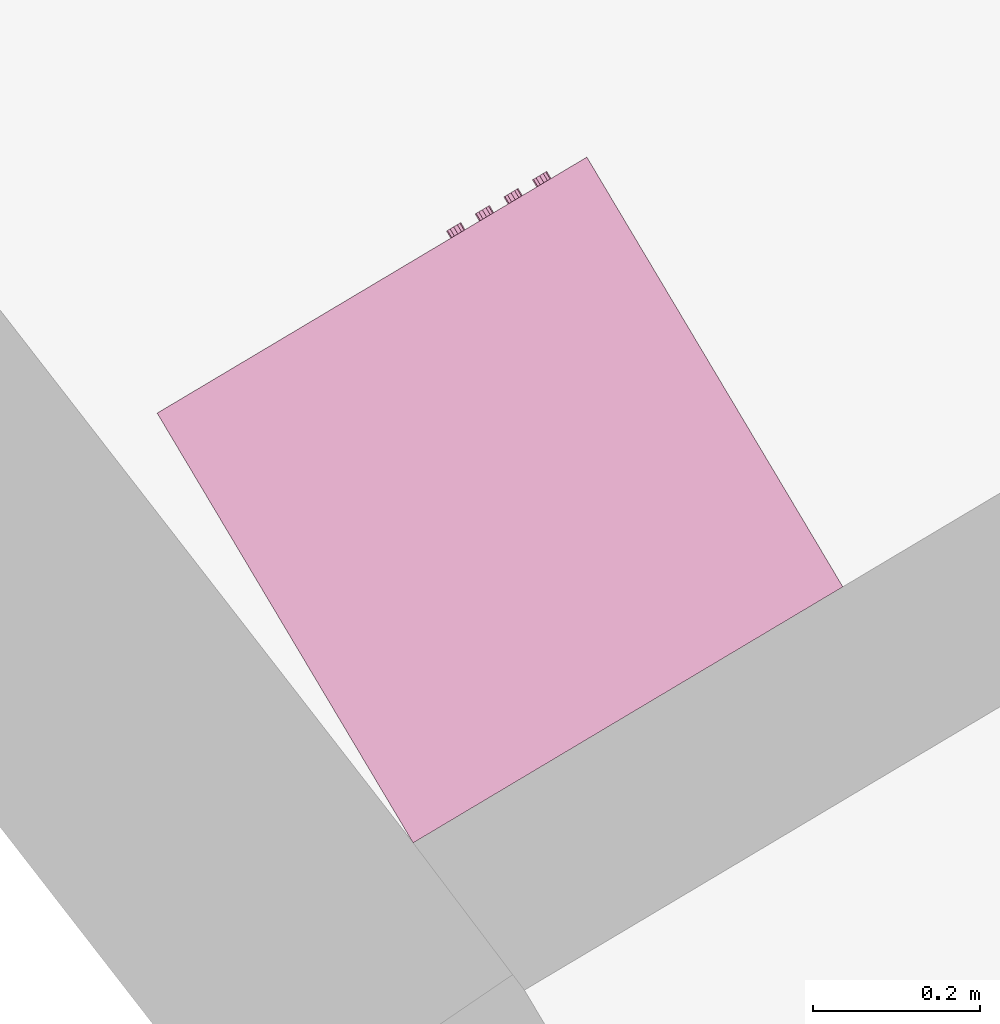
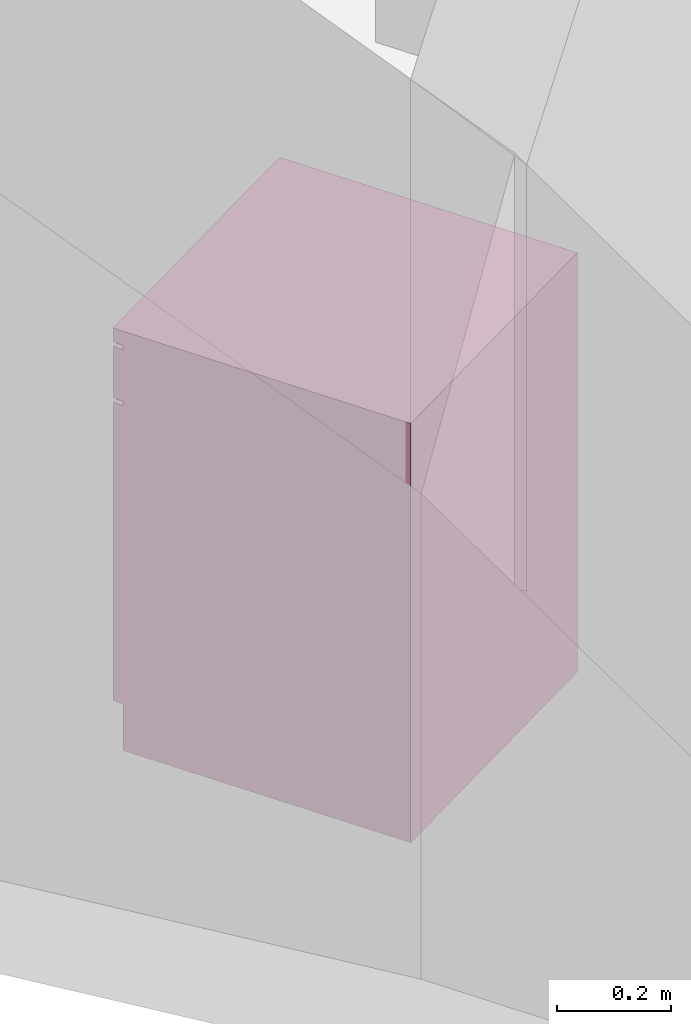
# One storey, part 154 of 195: 1 furnishing.
"""IFC2X3 building model written with IfcOpenShell, lengths in metres."""

from ifc_helpers import new_model, entity, si_unit, converted_unit, derived_unit, money_unit, direction, frame, origin_with_axes, place, context, subcontext, project, spatial, open_shell, faceted_brep, surface_model, source, transform, mapped, type_object, element, save


model = new_model("IFC2X3")

# Units and contexts
model_context = context("Model", 3, precision=1e-05, world=origin_with_axes(), true_north=direction((0.0, 1.0)))
body_context = subcontext(model_context, "Body", "Model", "MODEL_VIEW")
ifc_project = project(units=[si_unit("LENGTHUNIT", "METRE"), si_unit("AREAUNIT", "SQUARE_METRE"), si_unit("VOLUMEUNIT", "CUBIC_METRE"), converted_unit("PLANEANGLEUNIT", "DEGREE", entity("IfcPlaneAngleMeasure", 0.0174532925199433), si_unit("PLANEANGLEUNIT", "RADIAN"), dimensions=[0, 0, 0, 0, 0, 0, 0]), money_unit("CHF"), converted_unit("TIMEUNIT", "Year", entity("IfcTimeMeasure", 31557600.0), si_unit("TIMEUNIT", "SECOND"), dimensions=[0, 0, 1, 0, 0, 0, 0]), si_unit("MASSUNIT", "GRAM", prefix="KILO"), si_unit("THERMODYNAMICTEMPERATUREUNIT", "DEGREE_CELSIUS"), si_unit("LUMINOUSINTENSITYUNIT", "LUMEN"), si_unit("ENERGYUNIT", "JOULE", prefix="MEGA"), derived_unit("THERMALCONDUCTANCEUNIT", [(si_unit("POWERUNIT", "WATT"), 1), (si_unit("LENGTHUNIT", "METRE"), -1), (si_unit("THERMODYNAMICTEMPERATUREUNIT", "KELVIN"), -1)]), derived_unit("SPECIFICHEATCAPACITYUNIT", [(si_unit("ENERGYUNIT", "JOULE"), 1), (si_unit("MASSUNIT", "GRAM", prefix="KILO"), -1), (si_unit("THERMODYNAMICTEMPERATUREUNIT", "KELVIN"), -1)]), derived_unit("MASSDENSITYUNIT", [(si_unit("MASSUNIT", "GRAM", prefix="KILO"), 1), (si_unit("VOLUMEUNIT", "CUBIC_METRE"), -1)])], contexts=[model_context])

# Site, building, storey
site_placement = place(None, origin_with_axes())
site = spatial("IfcSite", under=ifc_project, at=site_placement, Name="Site", CompositionType="ELEMENT")
building_placement = place(site_placement, origin_with_axes())
building = spatial("IfcBuilding", under=site, at=building_placement, Name="Bâtiment", CompositionType="ELEMENT")
storey_placement = place(building_placement, origin_with_axes())
storey = spatial("IfcBuildingStorey", under=building, at=storey_placement, Name="rdc", CompositionType="ELEMENT", Elevation=0.0)

# Furnishing
furnishing_element_type = type_object("IfcFurnishingElementType", Name="Machine à laver")
shared_shape = source(origin_with_axes(), body_context, "Body", "SurfaceModel", [
    faceted_brep([(0.0, 0.02, 0.1), (0.6, 0.02, 0.1), (0.6, 0.0, 0.1), (0.0, 0.0, 0.1), (0.0, 0.02000000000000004, 0.74), (0.6, 0.02000000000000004, 0.74), (0.4714285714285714, 0.02000000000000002, 0.42), (0.4655872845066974, 0.02000000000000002, 0.4643689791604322), (0.448461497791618, 0.02000000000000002, 0.5057142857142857), (0.4212183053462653, 0.02000000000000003, 0.5412183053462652), (0.3857142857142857, 0.02000000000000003, 0.568461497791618), (0.3443689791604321, 0.02000000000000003, 0.5855872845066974), (0.3, 0.02000000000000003, 0.5914285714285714), (0.2556310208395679, 0.02000000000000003, 0.5855872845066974), (0.2142857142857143, 0.02000000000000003, 0.5684614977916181), (0.1787816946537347, 0.02000000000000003, 0.5412183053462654), (0.1515385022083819, 0.02000000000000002, 0.5057142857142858), (0.1344127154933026, 0.02000000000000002, 0.4643689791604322), (0.1285714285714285, 0.02000000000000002, 0.42), (0.1344127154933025, 0.02000000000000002, 0.3756310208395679), (0.1515385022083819, 0.02000000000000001, 0.3342857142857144), (0.1787816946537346, 0.02000000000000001, 0.2987816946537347), (0.2142857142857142, 0.02000000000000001, 0.2715385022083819), (0.2556310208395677, 0.02000000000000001, 0.2544127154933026), (0.2999999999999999, 0.02000000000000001, 0.2485714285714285), (0.344368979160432, 0.02000000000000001, 0.2544127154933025), (0.3857142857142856, 0.02000000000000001, 0.2715385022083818), (0.4212183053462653, 0.02000000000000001, 0.2987816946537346), (0.448461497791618, 0.02000000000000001, 0.3342857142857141), (0.4655872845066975, 0.02000000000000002, 0.3756310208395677), (0.6, 0.0, 0.74), (0.0, 0.0, 0.74), (0.4714285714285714, 0.0, 0.42), (0.4655872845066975, 0.0, 0.3756310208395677), (0.448461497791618, 0.0, 0.3342857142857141), (0.4212183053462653, 0.0, 0.2987816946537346), (0.3857142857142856, 0.0, 0.2715385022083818), (0.344368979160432, 0.0, 0.2544127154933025), (0.2999999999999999, 0.0, 0.2485714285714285), (0.2556310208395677, 0.0, 0.2544127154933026), (0.2142857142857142, 0.0, 0.2715385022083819), (0.1787816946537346, 0.0, 0.2987816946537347), (0.1515385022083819, 0.0, 0.3342857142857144), (0.1344127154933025, 0.0, 0.3756310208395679), (0.1285714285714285, 0.0, 0.42), (0.1344127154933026, 0.0, 0.4643689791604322), (0.1515385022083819, 0.0, 0.5057142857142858), (0.1787816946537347, 0.0, 0.5412183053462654), (0.2142857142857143, 0.0, 0.5684614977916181), (0.2556310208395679, 0.0, 0.5855872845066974), (0.3, 0.0, 0.5914285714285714), (0.3443689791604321, 0.0, 0.5855872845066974), (0.3857142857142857, 0.0, 0.568461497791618), (0.4212183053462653, 0.0, 0.5412183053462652), (0.448461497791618, 0.0, 0.5057142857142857), (0.4655872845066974, 0.0, 0.4643689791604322)], [[[0, 1, 2, 3]], [[0, 4, 5, 1], [6, 7, 8, 9, 10, 11, 12, 13, 14, 15, 16, 17, 18, 19, 20, 21, 22, 23, 24, 25, 26, 27, 28, 29]], [[1, 5, 30, 2]], [[3, 2, 30, 31], [32, 33, 34, 35, 36, 37, 38, 39, 40, 41, 42, 43, 44, 45, 46, 47, 48, 49, 50, 51, 52, 53, 54, 55]], [[4, 0, 3, 31]], [[5, 4, 31, 30]], [[7, 6, 32, 55]], [[8, 7, 55, 54]], [[9, 8, 54, 53]], [[10, 9, 53, 52]], [[11, 10, 52, 51]], [[12, 11, 51, 50]], [[13, 12, 50, 49]], [[14, 13, 49, 48]], [[15, 14, 48, 47]], [[16, 15, 47, 46]], [[17, 16, 46, 45]], [[18, 17, 45, 44]], [[19, 18, 44, 43]], [[20, 19, 43, 42]], [[21, 20, 42, 41]], [[22, 21, 41, 40]], [[23, 22, 40, 39]], [[24, 23, 39, 38]], [[25, 24, 38, 37]], [[26, 25, 37, 36]], [[27, 26, 36, 35]], [[28, 27, 35, 34]], [[29, 28, 34, 33]], [[6, 29, 33, 32]]]),
    faceted_brep([(0.4714285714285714, 0.04000000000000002, 0.42), (0.4655872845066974, 0.04000000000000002, 0.4643689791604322), (0.4655872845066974, 0.02000000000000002, 0.4643689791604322), (0.4714285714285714, 0.02000000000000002, 0.42), (0.4655872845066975, 0.04000000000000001, 0.3756310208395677), (0.448461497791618, 0.04000000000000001, 0.3342857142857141), (0.4212183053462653, 0.04000000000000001, 0.2987816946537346), (0.3857142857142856, 0.04000000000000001, 0.2715385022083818), (0.344368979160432, 0.04000000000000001, 0.2544127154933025), (0.2999999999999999, 0.04000000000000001, 0.2485714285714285), (0.2556310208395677, 0.04000000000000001, 0.2544127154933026), (0.2142857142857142, 0.04000000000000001, 0.2715385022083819), (0.1787816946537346, 0.04000000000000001, 0.2987816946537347), (0.1515385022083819, 0.04000000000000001, 0.3342857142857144), (0.1344127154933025, 0.04000000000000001, 0.3756310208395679), (0.1285714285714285, 0.04000000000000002, 0.42), (0.1344127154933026, 0.04000000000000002, 0.4643689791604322), (0.1515385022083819, 0.04000000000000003, 0.5057142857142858), (0.1787816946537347, 0.04000000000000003, 0.5412183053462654), (0.2142857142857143, 0.04000000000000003, 0.5684614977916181), (0.2556310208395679, 0.04000000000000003, 0.5855872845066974), (0.3, 0.04000000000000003, 0.5914285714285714), (0.3443689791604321, 0.04000000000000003, 0.5855872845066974), (0.3857142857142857, 0.04000000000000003, 0.568461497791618), (0.4212183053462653, 0.04000000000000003, 0.5412183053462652), (0.448461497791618, 0.04000000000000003, 0.5057142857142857), (0.4371428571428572, 0.04000000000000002, 0.42), (0.432469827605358, 0.04000000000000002, 0.4554951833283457), (0.4187691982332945, 0.04000000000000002, 0.4885714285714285), (0.3969746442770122, 0.04000000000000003, 0.5169746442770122), (0.3685714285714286, 0.04000000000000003, 0.5387691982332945), (0.3354951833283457, 0.04000000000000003, 0.552469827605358), (0.3, 0.04000000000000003, 0.5571428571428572), (0.2645048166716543, 0.04000000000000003, 0.552469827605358), (0.2314285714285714, 0.04000000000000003, 0.5387691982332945), (0.2030253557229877, 0.04000000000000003, 0.5169746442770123), (0.1812308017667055, 0.04000000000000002, 0.4885714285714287), (0.167530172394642, 0.04000000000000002, 0.4554951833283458), (0.1628571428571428, 0.04000000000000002, 0.42), (0.167530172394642, 0.04000000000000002, 0.3845048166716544), (0.1812308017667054, 0.04000000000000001, 0.3514285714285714), (0.2030253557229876, 0.04000000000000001, 0.3230253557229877), (0.2314285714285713, 0.04000000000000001, 0.3012308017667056), (0.2645048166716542, 0.04000000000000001, 0.287530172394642), (0.2999999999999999, 0.04000000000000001, 0.2828571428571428), (0.3354951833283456, 0.04000000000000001, 0.287530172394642), (0.3685714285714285, 0.04000000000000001, 0.3012308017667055), (0.3969746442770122, 0.04000000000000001, 0.3230253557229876), (0.4187691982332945, 0.04000000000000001, 0.3514285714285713), (0.432469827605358, 0.04000000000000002, 0.3845048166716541), (0.448461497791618, 0.02000000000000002, 0.5057142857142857), (0.4212183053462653, 0.02000000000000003, 0.5412183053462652), (0.3857142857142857, 0.02000000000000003, 0.568461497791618), (0.3443689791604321, 0.02000000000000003, 0.5855872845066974), (0.3, 0.02000000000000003, 0.5914285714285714), (0.2556310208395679, 0.02000000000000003, 0.5855872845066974), (0.2142857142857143, 0.02000000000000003, 0.5684614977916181), (0.1787816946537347, 0.02000000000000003, 0.5412183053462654), (0.1515385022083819, 0.02000000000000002, 0.5057142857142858), (0.1344127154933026, 0.02000000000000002, 0.4643689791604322), (0.1285714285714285, 0.02000000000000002, 0.42), (0.1344127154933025, 0.02000000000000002, 0.3756310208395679), (0.1515385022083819, 0.02000000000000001, 0.3342857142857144), (0.1787816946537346, 0.02000000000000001, 0.2987816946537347), (0.2142857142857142, 0.02000000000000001, 0.2715385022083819), (0.2556310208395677, 0.02000000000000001, 0.2544127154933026), (0.2999999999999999, 0.02000000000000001, 0.2485714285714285), (0.344368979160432, 0.02000000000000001, 0.2544127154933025), (0.3857142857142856, 0.02000000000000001, 0.2715385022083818), (0.4212183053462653, 0.02000000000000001, 0.2987816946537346), (0.448461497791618, 0.02000000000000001, 0.3342857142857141), (0.4655872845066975, 0.02000000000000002, 0.3756310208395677), (0.4371428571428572, 0.02000000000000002, 0.42), (0.432469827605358, 0.02000000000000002, 0.3845048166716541), (0.4187691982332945, 0.02000000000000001, 0.3514285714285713), (0.3969746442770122, 0.02000000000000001, 0.3230253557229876), (0.3685714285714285, 0.02000000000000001, 0.3012308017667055), (0.3354951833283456, 0.02000000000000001, 0.287530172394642), (0.2999999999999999, 0.02000000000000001, 0.2828571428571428), (0.2645048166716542, 0.02000000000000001, 0.287530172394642), (0.2314285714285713, 0.02000000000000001, 0.3012308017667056), (0.2030253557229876, 0.02000000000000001, 0.3230253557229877), (0.1812308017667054, 0.02000000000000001, 0.3514285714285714), (0.167530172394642, 0.02000000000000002, 0.3845048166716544), (0.1628571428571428, 0.02000000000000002, 0.42), (0.167530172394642, 0.02000000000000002, 0.4554951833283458), (0.1812308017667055, 0.02000000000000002, 0.4885714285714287), (0.2030253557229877, 0.02000000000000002, 0.5169746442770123), (0.2314285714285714, 0.02000000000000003, 0.5387691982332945), (0.2645048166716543, 0.02000000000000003, 0.552469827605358), (0.3, 0.02000000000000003, 0.5571428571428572), (0.3354951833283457, 0.02000000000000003, 0.552469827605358), (0.3685714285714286, 0.02000000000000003, 0.5387691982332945), (0.3969746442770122, 0.02000000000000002, 0.5169746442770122), (0.4187691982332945, 0.02000000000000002, 0.4885714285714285), (0.432469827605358, 0.02000000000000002, 0.4554951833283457)], [[[0, 1, 2, 3]], [[0, 4, 5, 6, 7, 8, 9, 10, 11, 12, 13, 14, 15, 16, 17, 18, 19, 20, 21, 22, 23, 24, 25, 1], [26, 27, 28, 29, 30, 31, 32, 33, 34, 35, 36, 37, 38, 39, 40, 41, 42, 43, 44, 45, 46, 47, 48, 49]], [[1, 25, 50, 2]], [[3, 2, 50, 51, 52, 53, 54, 55, 56, 57, 58, 59, 60, 61, 62, 63, 64, 65, 66, 67, 68, 69, 70, 71], [72, 73, 74, 75, 76, 77, 78, 79, 80, 81, 82, 83, 84, 85, 86, 87, 88, 89, 90, 91, 92, 93, 94, 95]], [[4, 0, 3, 71]], [[5, 4, 71, 70]], [[6, 5, 70, 69]], [[7, 6, 69, 68]], [[8, 7, 68, 67]], [[9, 8, 67, 66]], [[10, 9, 66, 65]], [[11, 10, 65, 64]], [[12, 11, 64, 63]], [[13, 12, 63, 62]], [[14, 13, 62, 61]], [[15, 14, 61, 60]], [[16, 15, 60, 59]], [[17, 16, 59, 58]], [[18, 17, 58, 57]], [[19, 18, 57, 56]], [[20, 19, 56, 55]], [[21, 20, 55, 54]], [[22, 21, 54, 53]], [[23, 22, 53, 52]], [[24, 23, 52, 51]], [[25, 24, 51, 50]], [[27, 26, 72, 95]], [[28, 27, 95, 94]], [[29, 28, 94, 93]], [[30, 29, 93, 92]], [[31, 30, 92, 91]], [[32, 31, 91, 90]], [[33, 32, 90, 89]], [[34, 33, 89, 88]], [[35, 34, 88, 87]], [[36, 35, 87, 86]], [[37, 36, 86, 85]], [[38, 37, 85, 84]], [[39, 38, 84, 83]], [[40, 39, 83, 82]], [[41, 40, 82, 81]], [[42, 41, 81, 80]], [[43, 42, 80, 79]], [[44, 43, 79, 78]], [[45, 44, 78, 77]], [[46, 45, 77, 76]], [[47, 46, 76, 75]], [[48, 47, 75, 74]], [[49, 48, 74, 73]], [[26, 49, 73, 72]]]),
    surface_model("IfcShellBasedSurfaceModel", [(0.2645048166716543, 0.03999999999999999, 0.552469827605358), (0.3, 0.03999999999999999, 0.5571428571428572), (0.3, 0.14, 0.5228571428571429), (0.2733786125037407, 0.14, 0.5193523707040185), (0.3354951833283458, 0.03999999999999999, 0.552469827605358), (0.3266213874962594, 0.14, 0.5193523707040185), (0.3514285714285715, 0.14, 0.5090768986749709), (0.3727309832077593, 0.14, 0.4927309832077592), (0.3890768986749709, 0.14, 0.4714285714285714), (0.3993523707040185, 0.14, 0.4466213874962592), (0.4028571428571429, 0.14, 0.42), (0.3993523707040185, 0.14, 0.3933786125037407), (0.3890768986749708, 0.14, 0.3685714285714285), (0.3727309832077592, 0.14, 0.3472690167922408), (0.3514285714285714, 0.14, 0.3309231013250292), (0.3266213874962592, 0.14, 0.3206476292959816), (0.2999999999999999, 0.14, 0.3171428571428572), (0.2733786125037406, 0.14, 0.3206476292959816), (0.2485714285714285, 0.14, 0.3309231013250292), (0.2272690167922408, 0.14, 0.3472690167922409), (0.2109231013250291, 0.14, 0.3685714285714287), (0.2006476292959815, 0.14, 0.3933786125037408), (0.1971428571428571, 0.14, 0.4200000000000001), (0.2006476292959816, 0.14, 0.4466213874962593), (0.2109231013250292, 0.14, 0.4714285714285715), (0.2272690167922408, 0.14, 0.4927309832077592), (0.2485714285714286, 0.14, 0.5090768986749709), (0.2314285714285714, 0.03999999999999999, 0.5387691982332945), (0.3685714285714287, 0.03999999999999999, 0.5387691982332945), (0.3969746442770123, 0.03999999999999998, 0.5169746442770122), (0.4187691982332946, 0.03999999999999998, 0.4885714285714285), (0.432469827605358, 0.03999999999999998, 0.4554951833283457), (0.4371428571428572, 0.03999999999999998, 0.4199999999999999), (0.432469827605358, 0.03999999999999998, 0.3845048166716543), (0.4187691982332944, 0.03999999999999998, 0.3514285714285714), (0.3969746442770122, 0.03999999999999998, 0.3230253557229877), (0.3685714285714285, 0.03999999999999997, 0.3012308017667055), (0.3354951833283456, 0.03999999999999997, 0.2875301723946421), (0.2999999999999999, 0.03999999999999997, 0.2828571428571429), (0.2645048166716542, 0.03999999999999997, 0.2875301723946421), (0.2314285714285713, 0.03999999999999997, 0.3012308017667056), (0.2030253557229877, 0.03999999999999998, 0.3230253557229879), (0.1812308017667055, 0.03999999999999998, 0.3514285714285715), (0.167530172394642, 0.03999999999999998, 0.3845048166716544), (0.1628571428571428, 0.03999999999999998, 0.4200000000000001), (0.167530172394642, 0.03999999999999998, 0.4554951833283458), (0.1812308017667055, 0.03999999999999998, 0.4885714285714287), (0.2030253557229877, 0.03999999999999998, 0.5169746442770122)], [open_shell([[[0, 1, 2, 3]], [[1, 4, 5, 2]], [[2, 5, 6, 7, 8, 9, 10, 11, 12, 13, 14, 15, 16, 17, 18, 19, 20, 21, 22, 23, 24, 25, 26, 3]], [[27, 0, 3, 26]], [[4, 28, 6, 5]], [[28, 29, 7, 6]], [[29, 30, 8, 7]], [[30, 31, 9, 8]], [[31, 32, 10, 9]], [[32, 33, 11, 10]], [[33, 34, 12, 11]], [[34, 35, 13, 12]], [[35, 36, 14, 13]], [[36, 37, 15, 14]], [[37, 38, 16, 15]], [[38, 39, 17, 16]], [[39, 40, 18, 17]], [[40, 41, 19, 18]], [[41, 42, 20, 19]], [[42, 43, 21, 20]], [[43, 44, 22, 21]], [[44, 45, 23, 22]], [[45, 46, 24, 23]], [[46, 47, 25, 24]], [[47, 27, 26, 25]]])]),
    surface_model("IfcShellBasedSurfaceModel", [(0.0, 0.02, 0.1), (0.0, 0.02000000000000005, 0.87), (0.0, 0.6, 0.87), (0.0, 0.6, 0.09999999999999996)], [open_shell([[[0, 1, 2, 3]]])]),
    surface_model("IfcShellBasedSurfaceModel", [(0.6, 0.01999999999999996, 0.1), (0.6, 0.02000000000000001, 0.87), (0.6, 0.5999999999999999, 0.87), (0.6, 0.5999999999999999, 0.09999999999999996)], [open_shell([[[0, 1, 2, 3]]])]),
    surface_model("IfcShellBasedSurfaceModel", [(0.0, 0.6, 0.1), (0.0, 0.6, 0.87), (0.6, 0.6, 0.87), (0.6, 0.6, 0.1)], [open_shell([[[0, 1, 2, 3]]])]),
    faceted_brep([(0.0, 0.02, 0.0), (0.6, 0.02, 0.0), (0.6, 0.02, 0.1), (0.0, 0.02, 0.1), (0.0, 0.6, 0.0), (0.6, 0.6, 0.0), (0.6, 0.6, 0.1), (0.0, 0.6, 0.1)], [[[0, 1, 2, 3]], [[0, 4, 5, 1]], [[1, 5, 6, 2]], [[3, 2, 6, 7]], [[4, 0, 3, 7]], [[5, 4, 7, 6]]]),
    faceted_brep([(0.0, 0.02, 0.75), (0.6, 0.02, 0.75), (0.6, 0.0, 0.75), (0.0, 0.0, 0.75), (0.0, 0.02000000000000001, 0.86), (0.6, 0.02000000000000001, 0.86), (0.6, 0.0, 0.86), (0.0, 0.0, 0.86)], [[[0, 1, 2, 3]], [[0, 4, 5, 1]], [[1, 5, 6, 2]], [[3, 2, 6, 7]], [[4, 0, 3, 7]], [[5, 4, 7, 6]]]),
    surface_model("IfcShellBasedSurfaceModel", [(0.0, 0.02, 0.74), (0.0, 0.02000000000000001, 0.87), (0.6, 0.02000000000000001, 0.87), (0.6, 0.02, 0.74)], [open_shell([[[0, 1, 2, 3]]])]),
    faceted_brep([(0.0, 0.0, 0.87), (0.6, 0.0, 0.87), (0.6, 0.0, 0.9), (0.0, 0.0, 0.9), (0.0, 0.6, 0.87), (0.6, 0.6, 0.87), (0.6, 0.6, 0.9), (0.0, 0.6, 0.9)], [[[0, 1, 2, 3]], [[0, 4, 5, 1]], [[1, 5, 6, 2]], [[3, 2, 6, 7]], [[4, 0, 3, 7]], [[5, 4, 7, 6]]]),
    faceted_brep([(0.06866025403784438, 0.0, 0.8049999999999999), (0.06499999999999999, 0.0, 0.8013397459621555), (0.05999999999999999, 0.0, 0.7999999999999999), (0.05499999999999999, 0.0, 0.8013397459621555), (0.05133974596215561, 0.0, 0.8049999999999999), (0.05, 0.0, 0.8099999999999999), (0.05133974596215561, 0.0, 0.815), (0.055, 0.0, 0.8186602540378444), (0.06, 0.0, 0.82), (0.065, 0.0, 0.8186602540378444), (0.06866025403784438, 0.0, 0.815), (0.06999999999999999, 0.0, 0.8099999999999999), (0.06866025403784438, -0.01, 0.8049999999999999), (0.06499999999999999, -0.01, 0.8013397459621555), (0.05999999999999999, -0.01, 0.7999999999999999), (0.05499999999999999, -0.01, 0.8013397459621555), (0.05133974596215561, -0.01, 0.8049999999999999), (0.05, -0.01, 0.8099999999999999), (0.05133974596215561, -0.01, 0.815), (0.055, -0.01, 0.8186602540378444), (0.06, -0.01, 0.82), (0.065, -0.01, 0.8186602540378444), (0.06866025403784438, -0.01, 0.815), (0.06999999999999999, -0.01, 0.8099999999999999)], [[[0, 1, 2, 3, 4, 5, 6, 7, 8, 9, 10, 11]], [[1, 0, 12, 13]], [[2, 1, 13, 14]], [[3, 2, 14, 15]], [[4, 3, 15, 16]], [[5, 4, 16, 17]], [[6, 5, 17, 18]], [[7, 6, 18, 19]], [[8, 7, 19, 20]], [[9, 8, 20, 21]], [[10, 9, 21, 22]], [[11, 10, 22, 23]], [[0, 11, 23, 12]], [[12, 23, 22, 21, 20, 19, 18, 17, 16, 15, 14, 13]]]),
    faceted_brep([(0.1086602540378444, 0.0, 0.8049999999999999), (0.105, 0.0, 0.8013397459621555), (0.09999999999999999, 0.0, 0.7999999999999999), (0.095, 0.0, 0.8013397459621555), (0.09133974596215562, 0.0, 0.8049999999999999), (0.09000000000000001, 0.0, 0.8099999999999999), (0.09133974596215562, 0.0, 0.815), (0.095, 0.0, 0.8186602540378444), (0.1, 0.0, 0.82), (0.105, 0.0, 0.8186602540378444), (0.1086602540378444, 0.0, 0.815), (0.11, 0.0, 0.8099999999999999), (0.1086602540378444, -0.01, 0.8049999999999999), (0.105, -0.01, 0.8013397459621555), (0.09999999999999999, -0.01, 0.7999999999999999), (0.095, -0.01, 0.8013397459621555), (0.09133974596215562, -0.01, 0.8049999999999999), (0.09000000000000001, -0.01, 0.8099999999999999), (0.09133974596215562, -0.01, 0.815), (0.095, -0.01, 0.8186602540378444), (0.1, -0.01, 0.82), (0.105, -0.01, 0.8186602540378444), (0.1086602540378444, -0.01, 0.815), (0.11, -0.01, 0.8099999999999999)], [[[0, 1, 2, 3, 4, 5, 6, 7, 8, 9, 10, 11]], [[1, 0, 12, 13]], [[2, 1, 13, 14]], [[3, 2, 14, 15]], [[4, 3, 15, 16]], [[5, 4, 16, 17]], [[6, 5, 17, 18]], [[7, 6, 18, 19]], [[8, 7, 19, 20]], [[9, 8, 20, 21]], [[10, 9, 21, 22]], [[11, 10, 22, 23]], [[0, 11, 23, 12]], [[12, 23, 22, 21, 20, 19, 18, 17, 16, 15, 14, 13]]]),
    faceted_brep([(0.1486602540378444, 0.0, 0.8049999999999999), (0.145, 0.0, 0.8013397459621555), (0.14, 0.0, 0.7999999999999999), (0.135, 0.0, 0.8013397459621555), (0.1313397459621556, 0.0, 0.8049999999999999), (0.13, 0.0, 0.8099999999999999), (0.1313397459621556, 0.0, 0.815), (0.135, 0.0, 0.8186602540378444), (0.14, 0.0, 0.82), (0.145, 0.0, 0.8186602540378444), (0.1486602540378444, 0.0, 0.815), (0.15, 0.0, 0.8099999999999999), (0.1486602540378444, -0.01, 0.8049999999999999), (0.145, -0.01, 0.8013397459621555), (0.14, -0.01, 0.7999999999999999), (0.135, -0.01, 0.8013397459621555), (0.1313397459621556, -0.01, 0.8049999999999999), (0.13, -0.01, 0.8099999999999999), (0.1313397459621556, -0.01, 0.815), (0.135, -0.01, 0.8186602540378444), (0.14, -0.01, 0.82), (0.145, -0.01, 0.8186602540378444), (0.1486602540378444, -0.01, 0.815), (0.15, -0.01, 0.8099999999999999)], [[[0, 1, 2, 3, 4, 5, 6, 7, 8, 9, 10, 11]], [[1, 0, 12, 13]], [[2, 1, 13, 14]], [[3, 2, 14, 15]], [[4, 3, 15, 16]], [[5, 4, 16, 17]], [[6, 5, 17, 18]], [[7, 6, 18, 19]], [[8, 7, 19, 20]], [[9, 8, 20, 21]], [[10, 9, 21, 22]], [[11, 10, 22, 23]], [[0, 11, 23, 12]], [[12, 23, 22, 21, 20, 19, 18, 17, 16, 15, 14, 13]]]),
    faceted_brep([(0.1886602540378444, 0.0, 0.8049999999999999), (0.185, 0.0, 0.8013397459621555), (0.18, 0.0, 0.7999999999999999), (0.175, 0.0, 0.8013397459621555), (0.1713397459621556, 0.0, 0.8049999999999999), (0.17, 0.0, 0.8099999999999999), (0.1713397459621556, 0.0, 0.815), (0.175, 0.0, 0.8186602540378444), (0.18, 0.0, 0.82), (0.185, 0.0, 0.8186602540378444), (0.1886602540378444, 0.0, 0.815), (0.19, 0.0, 0.8099999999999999), (0.1886602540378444, -0.01, 0.8049999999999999), (0.185, -0.01, 0.8013397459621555), (0.18, -0.01, 0.7999999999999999), (0.175, -0.01, 0.8013397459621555), (0.1713397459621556, -0.01, 0.8049999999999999), (0.17, -0.01, 0.8099999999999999), (0.1713397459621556, -0.01, 0.815), (0.175, -0.01, 0.8186602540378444), (0.18, -0.01, 0.82), (0.185, -0.01, 0.8186602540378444), (0.1886602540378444, -0.01, 0.815), (0.19, -0.01, 0.8099999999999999)], [[[0, 1, 2, 3, 4, 5, 6, 7, 8, 9, 10, 11]], [[1, 0, 12, 13]], [[2, 1, 13, 14]], [[3, 2, 14, 15]], [[4, 3, 15, 16]], [[5, 4, 16, 17]], [[6, 5, 17, 18]], [[7, 6, 18, 19]], [[8, 7, 19, 20]], [[9, 8, 20, 21]], [[10, 9, 21, 22]], [[11, 10, 22, 23]], [[0, 11, 23, 12]], [[12, 23, 22, 21, 20, 19, 18, 17, 16, 15, 14, 13]]]),
])
furnishing_placement = place(storey_placement, frame((9538.848143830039, -1046.012603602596, 57.7), z_axis=(0.0, 0.0, 1.0), x_axis=(-0.8590868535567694, -0.5118298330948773, 0.0)))
element("IfcFurnishingElement", 1, at=furnishing_placement, inside=storey, type_object=furnishing_element_type, Name="Obj.-019", context=body_context, shape_type="MappedRepresentation", body=[
    mapped(shared_shape, transform((0.0, 0.0, 0.0))),
])

save(model, "model.ifc")
